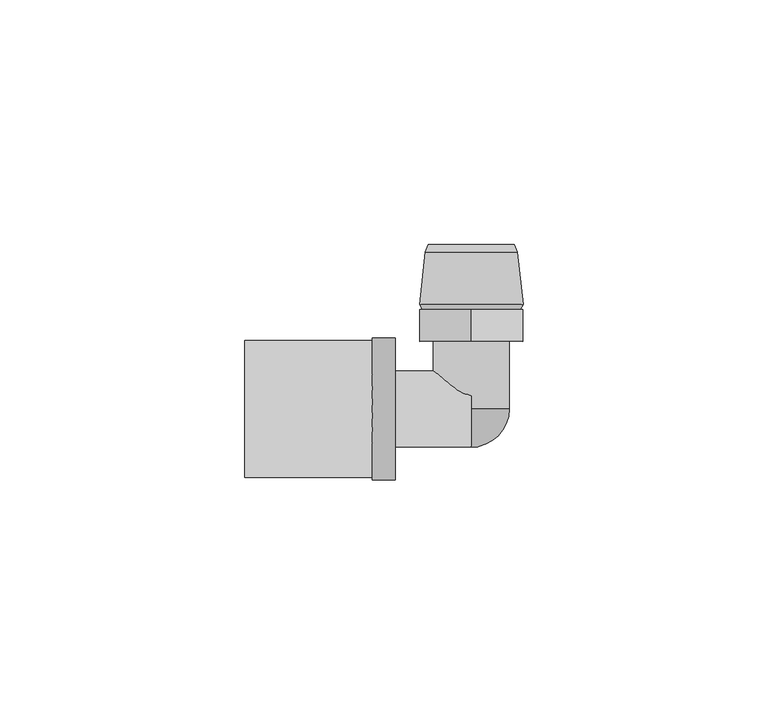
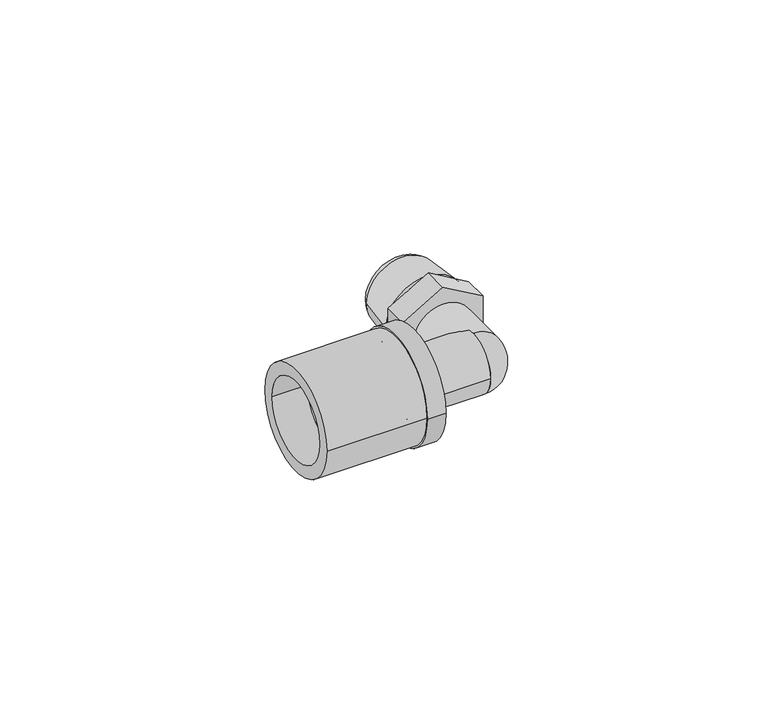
"""IFC4 building model written with IfcOpenShell, lengths in millimetres: pipe fitting geometry, FASTLOC_Elbow with male thread EX+ : FSL A internal AT."""

import ifcopenshell
import ifcopenshell.guid

model = None  # the IFC model being written
_history = None  # IfcOwnerHistory: only IFC2X3 demands one
_inside = {}  # id of a spatial element -> (the spatial element, [elements in it])
_under = {}  # id of a project, library or spatial element -> (it, [spatial elements below it])
_declared = {}  # id of a project -> (the project, [libraries it declares])
_typed = {}  # id of a type object -> (the type object, [elements of that type])
_made_of = {}  # id of a material, layer set ... -> (it, [elements and type objects made of it])


def new_model(schema):
    """Start an empty IFC model of exactly this schema.

    Asked for "IFC4X3", IfcOpenShell would pick the latest addendum, in which some entities
    have other attributes; the version numbers below select the first issue.
    IFC2X3 requires an IfcOwnerHistory on every rooted entity: one is made here for all.
    """
    global model, _history
    if schema == "IFC4X3":
        model = ifcopenshell.file(schema_version=(4, 3, 0, 0))
    else:
        model = ifcopenshell.file(schema=schema)
    _inside.clear()
    _under.clear()
    _declared.clear()
    _typed.clear()
    _made_of.clear()
    _history = None
    if model.schema == "IFC2X3":
        org = make("IfcOrganization", Name="unknown")
        user = make(
            "IfcPersonAndOrganization",
            ThePerson=make("IfcPerson", FamilyName="unknown"),
            TheOrganization=org,
        )
        app = make(
            "IfcApplication",
            ApplicationDeveloper=org,
            Version="unknown",
            ApplicationFullName="unknown",
            ApplicationIdentifier="unknown",
        )
        _history = make(
            "IfcOwnerHistory",
            OwningUser=user,
            OwningApplication=app,
            ChangeAction="ADDED",
            CreationDate=0,
        )
    return model


def make(cls, **values):
    """One entity of the class cls with the attributes given. An attribute that is None is left unset."""
    return model.create_entity(
        cls, **{name: value for name, value in values.items() if value is not None}
    )


def rooted(cls, **values):
    """An entity with a GlobalId (a new one), such as an element, a storey or a relation."""
    return make(cls, GlobalId=ifcopenshell.guid.new(), OwnerHistory=_history, **values)


def si_unit(unit_type, name, prefix=None):
    """IfcSIUnit, for example si_unit("LENGTHUNIT", "METRE", prefix="MILLI")."""
    return make("IfcSIUnit", UnitType=unit_type, Prefix=prefix, Name=name)


def assignment(units):
    """IfcUnitAssignment: the units of a project."""
    return None if units is None else make("IfcUnitAssignment", Units=units)


def point(xyz):
    """IfcCartesianPoint."""
    return None if xyz is None else make("IfcCartesianPoint", Coordinates=xyz)


def direction(xyz):
    """IfcDirection."""
    return None if xyz is None else make("IfcDirection", DirectionRatios=xyz)


def frame(location, z_axis=None, x_axis=None):
    """IfcAxis2Placement3D, a coordinate frame: its origin and axes. An axis left out is left unset."""
    return make(
        "IfcAxis2Placement3D",
        Location=point(location),
        Axis=direction(z_axis),
        RefDirection=direction(x_axis),
    )


def frame_2d(location, x_axis=None):
    """IfcAxis2Placement2D, a coordinate frame in the plane: its origin and x axis."""
    return make(
        "IfcAxis2Placement2D", Location=point(location), RefDirection=direction(x_axis)
    )


def origin():
    """The frame at (0, 0, 0) with its axes left unset."""
    return frame((0.0, 0.0, 0.0))


def origin_2d():
    """The frame at (0, 0) in the plane with its x axis left unset."""
    return frame_2d((0.0, 0.0))


def place(relative_to, where):
    """IfcLocalPlacement: puts the frame where relative to a parent placement (None: the world)."""
    return make(
        "IfcLocalPlacement", PlacementRelTo=relative_to, RelativePlacement=where
    )


def context(
    kind, dimensions, precision=None, world=None, true_north=None, identifier=None
):
    """IfcGeometricRepresentationContext, for example the 3D "Model" context."""
    return make(
        "IfcGeometricRepresentationContext",
        ContextIdentifier=identifier,
        ContextType=kind,
        CoordinateSpaceDimension=dimensions,
        Precision=precision,
        WorldCoordinateSystem=world,
        TrueNorth=true_north,
    )


def project(units=None, contexts=None):
    """IfcProject with its units and contexts."""
    return rooted(
        "IfcProject",
        Name="project",
        RepresentationContexts=contexts,
        UnitsInContext=assignment(units),
    )


def spatial(cls, under=None, at=None, **own):
    """A site, building, storey or space (cls), placed at a placement, below another one or the project."""
    s = rooted(cls, ObjectPlacement=at, **own)
    if under is not None:
        _under.setdefault(under.id(), (under, []))[1].append(s)
    return s


def polyline(points):
    """IfcPolyline through the points."""
    return make("IfcPolyline", Points=[point(p) for p in points])


def circle_curve(where, radius):
    """IfcCircle in the frame where."""
    return make("IfcCircle", Position=where, Radius=radius)


def ellipse_curve(where, semi_axis1, semi_axis2):
    """IfcEllipse in the frame where."""
    return make(
        "IfcEllipse", Position=where, SemiAxis1=semi_axis1, SemiAxis2=semi_axis2
    )


def trimmed(basis, trim1, trim2, sense, master):
    """IfcTrimmedCurve: the piece of a basis curve between two trims."""
    return make(
        "IfcTrimmedCurve",
        BasisCurve=basis,
        Trim1=trim1,
        Trim2=trim2,
        SenseAgreement=sense,
        MasterRepresentation=master,
    )


def segment(curve, same_sense, transition):
    """IfcCompositeCurveSegment."""
    return make(
        "IfcCompositeCurveSegment",
        Transition=transition,
        SameSense=same_sense,
        ParentCurve=curve,
    )


def composite_curve(segments, self_intersect=None):
    """IfcCompositeCurve: segments joined end to end."""
    return make("IfcCompositeCurve", Segments=segments, SelfIntersect=self_intersect)


def outline(outer, holes=None, kind="AREA"):
    """IfcArbitraryClosedProfileDef: a profile drawn as a closed curve; with holes, ...WithVoids."""
    if holes is None:
        return make("IfcArbitraryClosedProfileDef", ProfileType=kind, OuterCurve=outer)
    return make(
        "IfcArbitraryProfileDefWithVoids",
        ProfileType=kind,
        OuterCurve=outer,
        InnerCurves=holes,
    )


def extrude(swept, where, along, depth):
    """IfcExtrudedAreaSolid: the profile swept, set in the frame where, extruded along a direction by depth."""
    return make(
        "IfcExtrudedAreaSolid",
        SweptArea=swept,
        Position=where,
        ExtrudedDirection=direction(along),
        Depth=depth,
    )


def shape(context_of_items, identifier, shape_type, items):
    """IfcShapeRepresentation: the items that make up one representation, for example the "Body"."""
    return make(
        "IfcShapeRepresentation",
        ContextOfItems=context_of_items,
        RepresentationIdentifier=identifier,
        RepresentationType=shape_type,
        Items=items,
    )


def source(mapping_origin, context_of_items, identifier, shape_type, items):
    """IfcRepresentationMap: a shape defined once, which mapped items show again and again."""
    return make(
        "IfcRepresentationMap",
        MappingOrigin=mapping_origin,
        MappedRepresentation=shape(context_of_items, identifier, shape_type, items),
    )


def transform(
    local_origin,
    x_axis=None,
    y_axis=None,
    z_axis=None,
    scale=None,
    scale2=None,
    scale3=None,
    uniform=True,
):
    """IfcCartesianTransformationOperator3D, or its non-uniform kind. x_axis, y_axis, z_axis: its Axis1, 2, 3."""
    if uniform:
        return make(
            "IfcCartesianTransformationOperator3D",
            Axis1=direction(x_axis),
            Axis2=direction(y_axis),
            LocalOrigin=point(local_origin),
            Scale=scale,
            Axis3=direction(z_axis),
        )
    return make(
        "IfcCartesianTransformationOperator3DnonUniform",
        Axis1=direction(x_axis),
        Axis2=direction(y_axis),
        LocalOrigin=point(local_origin),
        Scale=scale,
        Axis3=direction(z_axis),
        Scale2=scale2,
        Scale3=scale3,
    )


def mapped(mapping_source, mapping_target):
    """IfcMappedItem: shows the shape of a source again, moved by a transform."""
    return make(
        "IfcMappedItem", MappingSource=mapping_source, MappingTarget=mapping_target
    )


def made_of(thing, what):
    """Note that an element or type object is made of a material, layer set ...; save() writes the relation."""
    if what is not None:
        _made_of.setdefault(what.id(), (what, []))[1].append(thing)
    return thing


def element(
    cls,
    number,
    at=None,
    inside=None,
    cuts=None,
    type_object=None,
    material=None,
    context=None,
    identifier="Body",
    shape_type=None,
    held_by="IfcProductDefinitionShape",
    body=None,
    shapes=None,
    **own,
):
    """One element of the class cls, such as IfcWall. Its Tag is "e" and its number.

    at: its placement. inside: the storey or other place that contains it. cuts: it is an
    opening in that element (IfcRelVoidsElement). A single representation is given by context,
    identifier, shape_type and body (its items); several are given by shapes. held_by: the class
    of the entity that holds the representations. save() writes the other relations.
    """
    e = rooted(cls, Tag="e%d" % number, ObjectPlacement=at, **own)
    if body is not None:
        shapes = [shape(context, identifier, shape_type, body)]
    if shapes is not None:
        e.Representation = make(held_by, Representations=shapes)
    if inside is not None:
        _inside.setdefault(inside.id(), (inside, []))[1].append(e)
    if cuts is not None:
        rooted(
            "IfcRelVoidsElement", RelatingBuildingElement=cuts, RelatedOpeningElement=e
        )
    if type_object is not None:
        _typed.setdefault(type_object.id(), (type_object, []))[1].append(e)
    return made_of(e, material)


def aggregate(whole, parts):
    """IfcRelAggregates: a whole, such as a stair, and the parts it consists of."""
    return rooted("IfcRelAggregates", RelatingObject=whole, RelatedObjects=parts)


def save(model, path):
    """Write the relations noted so far, then the file.

    IfcRelAggregates (storeys below a building ...), IfcRelContainedInSpatialStructure (elements
    in a storey), IfcRelDefinesByType, IfcRelAssociatesMaterial and IfcRelDeclares: one each for
    every whole, place, type object, material and project.
    """
    for whole, parts in _under.values():
        aggregate(whole, parts)
    for where, things in _inside.values():
        rooted(
            "IfcRelContainedInSpatialStructure",
            RelatedElements=things,
            RelatingStructure=where,
        )
    for kind, things in _typed.values():
        rooted("IfcRelDefinesByType", RelatedObjects=things, RelatingType=kind)
    for what, things in _made_of.values():
        rooted("IfcRelAssociatesMaterial", RelatedObjects=things, RelatingMaterial=what)
    for by, libraries in _declared.values():
        rooted("IfcRelDeclares", RelatingContext=by, RelatedDefinitions=libraries)
    model.write(path)


def plane_surface(at):
    """IfcPlane: the flat surface through the origin of the frame at, square to its z axis."""
    return make("IfcPlane", Position=at)


def cylinder_surface(at, radius):
    """IfcCylindricalSurface: all points at the distance radius from the z axis of the frame at."""
    return make("IfcCylindricalSurface", Position=at, Radius=radius)


def revolved_surface(curve, axis_point, axis_direction):
    """IfcSurfaceOfRevolution: the curve turned about the line through axis_point along axis_direction."""
    return make(
        "IfcSurfaceOfRevolution",
        SweptCurve=make("IfcArbitraryOpenProfileDef", ProfileType="CURVE", Curve=curve),
        AxisPosition=make("IfcAxis1Placement", Location=point(axis_point), Axis=direction(axis_direction)),
    )


def advanced_brep(points, edges, surfaces, faces):
    """IfcAdvancedBrep: a solid bounded by faces that lie on surfaces and meet in shared edges.

    An edge is (start, end): straight between two places in points (the first is 0);
    or (start, end, curve); or (start, end, curve, False) where it runs against its curve.
    A face is (place in surfaces, loops), or (place, loops, False) where it looks against
    its surface's normal. A loop lists edges by number (the first is 1), with a minus sign
    where the edge is run from its end to its start. The first loop is the outer one.
    """
    corners = [point(p) for p in points]
    vertices = [make("IfcVertexPoint", VertexGeometry=c) for c in corners]
    made = []
    for start, end, *more in edges:
        made.append(
            make(
                "IfcEdgeCurve",
                EdgeStart=vertices[start],
                EdgeEnd=vertices[end],
                EdgeGeometry=more[0] if more else make("IfcPolyline", Points=[corners[start], corners[end]]),
                SameSense=more[1] if len(more) > 1 else True,
            )
        )
    hull = []
    for where, loops, *sense in faces:
        bounds = []
        for j, loop in enumerate(loops):
            ring = [make("IfcOrientedEdge", EdgeElement=made[abs(k) - 1], Orientation=k > 0) for k in loop]
            bounds.append(
                make(
                    "IfcFaceOuterBound" if j == 0 else "IfcFaceBound",
                    Bound=make("IfcEdgeLoop", EdgeList=ring),
                    Orientation=True,
                )
            )
        hull.append(make("IfcAdvancedFace", Bounds=bounds, FaceSurface=surfaces[where], SameSense=sense[0] if sense else True))
    return make("IfcAdvancedBrep", Outer=make("IfcClosedShell", CfsFaces=hull))


def pipe_fitting_d3274886(model_context):
    return source(origin(), model_context, "Body", "SolidModel", [
        extrude(outline(composite_curve([segment(trimmed(circle_curve(origin_2d(), 14.0), [point((14.0, 0.0))], [point((-14.0, 0.0))], False, "CARTESIAN"), True, "CONTINUOUS"), segment(trimmed(circle_curve(origin_2d(), 14.0), [point((-14.0, 0.0))], [point((14.0, 0.0))], False, "CARTESIAN"), True, "CONTINUOUS")], self_intersect=False), holes=[composite_curve([segment(trimmed(circle_curve(origin_2d(), 10.7), [point((10.7, 0.0))], [point((-10.7, 0.0))], True, "CARTESIAN"), True, "CONTINUOUS"), segment(trimmed(circle_curve(origin_2d(), 10.7), [point((-10.7, 0.0))], [point((10.7, 0.0))], True, "CARTESIAN"), True, "CONTINUOUS")], self_intersect=False)]), frame((-46.2, 0.0, 0.0), z_axis=(1.0, 0.0, 0.0), x_axis=(0.0, 1.0, 0.0)), (0.0, 0.0, 1.0), 26.0),
        advanced_brep(
        [(-20.2, -14.5, 0.0), (-20.2, 14.5, 0.0), (-15.5, 14.5, 0.0), (-15.5, -14.5, 0.0), (-37.2, -11.85, 0.0), (-37.2, 11.85, 0.0), (-20.2, 11.85, 0.0), (-20.2, -11.85, 0.0), (-15.5, -10.15, 0.0), (-15.5, 10.15, 0.0), (-37.2, 10.15, 0.0), (-37.2, -10.15, 0.0)],
        [
            (0, 1, circle_curve(frame((-20.2, 0.0, 0.0), z_axis=(1.0, 0.0, 0.0), x_axis=(0.0, 1.0, 0.0)), 14.5)),
            (1, 2),
            (2, 3, circle_curve(frame((-15.5, 0.0, 0.0), z_axis=(-1.0, 0.0, 0.0), x_axis=(0.0, 1.0, 0.0)), 14.5)),
            (3, 0),
            (4, 5, circle_curve(frame((-37.2, 0.0, 0.0), z_axis=(1.0, 0.0, 0.0), x_axis=(0.0, 1.0, 0.0)), 11.85)),
            (5, 6),
            (6, 7, circle_curve(frame((-20.2, 0.0, 0.0), z_axis=(-1.0, 0.0, 0.0), x_axis=(0.0, 1.0, 0.0)), 11.85)),
            (7, 4),
            (8, 9, circle_curve(frame((-15.5, 0.0, 0.0), z_axis=(1.0, 0.0, 0.0), x_axis=(0.0, 1.0, 0.0)), 10.15)),
            (9, 10),
            (10, 11, circle_curve(frame((-37.2, 0.0, 0.0), z_axis=(-1.0, 0.0, 0.0), x_axis=(0.0, 1.0, 0.0)), 10.15)),
            (11, 8),
            (1, 0, circle_curve(frame((-20.2, 0.0, 0.0), z_axis=(1.0, 0.0, 0.0), x_axis=(0.0, -1.0, 0.0)), 14.5)),
            (3, 2, circle_curve(frame((-15.5, 0.0, 0.0), z_axis=(-1.0, 0.0, 0.0), x_axis=(0.0, -1.0, 0.0)), 14.5)),
            (6, 7, circle_curve(frame((-20.2, 0.0, 0.0), z_axis=(1.0, 0.0, 0.0), x_axis=(0.0, -1.0, 0.0)), 11.85)),
            (5, 4, circle_curve(frame((-37.2, 0.0, 0.0), z_axis=(1.0, 0.0, 0.0), x_axis=(0.0, -1.0, 0.0)), 11.85)),
            (10, 11, circle_curve(frame((-37.2, 0.0, 0.0), z_axis=(1.0, 0.0, 0.0), x_axis=(0.0, -1.0, 0.0)), 10.15)),
            (9, 8, circle_curve(frame((-15.5, 0.0, 0.0), z_axis=(1.0, 0.0, 0.0), x_axis=(0.0, -1.0, 0.0)), 10.15)),
        ],
        [
            cylinder_surface(frame((-15.5, 0.0, 0.0), z_axis=(-1.0, 0.0, 0.0), x_axis=(0.0, 1.0, 0.0)), 14.5),
            cylinder_surface(frame((-15.5, 0.0, 0.0), z_axis=(-1.0, 0.0, 0.0), x_axis=(0.0, 1.0, 0.0)), 11.85),
            revolved_surface(polyline([(-37.2, 10.15, 0.0), (-15.5, 10.15, 0.0)]), (-15.5, 0.0, 0.0), (-1.0, 0.0, 0.0)),
            cylinder_surface(frame((-15.5, 0.0, 0.0), z_axis=(-1.0, 0.0, 0.0), x_axis=(0.0, -1.0, 0.0)), 14.5),
            plane_surface(frame((-20.2, 0.0, 0.0), z_axis=(-1.0, 0.0, 0.0), x_axis=(0.0, -1.0, 0.0))),
            cylinder_surface(frame((-15.5, 0.0, 0.0), z_axis=(-1.0, 0.0, 0.0), x_axis=(0.0, -1.0, 0.0)), 11.85),
            plane_surface(frame((-37.2, 0.0, 0.0), z_axis=(-1.0, 0.0, 0.0), x_axis=(0.0, -1.0, 0.0))),
            revolved_surface(polyline([(-37.2, -10.15, 0.0), (-15.5, -10.15, 0.0)]), (-15.5, 0.0, 0.0), (-1.0, 0.0, 0.0)),
            plane_surface(frame((-15.5, 0.0, 0.0), z_axis=(1.0, 0.0, 0.0), x_axis=(0.0, -1.0, 0.0))),
        ],
        [
            (0, [[1, 2, 3, 4]]),
            (1, [[5, 6, 7, 8]]),
            (2, [[9, 10, 11, 12]]),
            (3, [[13, -4, 14, -2]]),
            (4, [[-13, -1], [15, -7]]),
            (5, [[16, -8, -15, -6]]),
            (6, [[-16, -5], [17, -11]]),
            (7, [[18, -12, -17, -10]]),
            (8, [[-14, -3], [-18, -9]]),
        ],
    ),
        advanced_brep(
        [(9.4, 32.0000007, 0.0), (-9.4, 32.0000007, 0.0), (-8.75, 33.5, 0.0), (8.75, 33.5, 0.0), (10.55, 21.3531902, 0.0), (-10.55, 21.3531902, 0.0), (10.0, 20.3, 0.0), (-10.0, 20.3, 0.0), (7.0, 21.7157803, 0.0), (-7.0, 21.7157803, 0.0), (-5.8967197, 20.3, 0.0), (5.8967197, 20.3, 0.0), (7.0, 33.5, 0.0), (-7.0, 33.5, 0.0)],
        [
            (0, 1, circle_curve(frame((0.0, 32.0000007, 0.0), z_axis=(0.0, 1.0, 0.0), x_axis=(-1.0, 0.0, 0.0)), 9.4)),
            (1, 2),
            (2, 3, circle_curve(frame((0.0, 33.5, 0.0), z_axis=(0.0, -1.0, 0.0), x_axis=(-1.0, 0.0, 0.0)), 8.75)),
            (3, 0),
            (4, 5, circle_curve(frame((0.0, 21.3531902, 0.0), z_axis=(0.0, 1.0, 0.0), x_axis=(-1.0, 0.0, 0.0)), 10.55)),
            (5, 1),
            (0, 4),
            (6, 7, circle_curve(frame((0.0, 20.3, 0.0), z_axis=(0.0, 1.0, 0.0), x_axis=(-1.0, 0.0, 0.0)), 10.0)),
            (7, 5),
            (4, 6),
            (8, 9, circle_curve(frame((0.0, 21.7157803, 0.0), z_axis=(0.0, 1.0, 0.0), x_axis=(-1.0, 0.0, 0.0)), 7.0)),
            (9, 10),
            (10, 11, circle_curve(frame((0.0, 20.3, 0.0), z_axis=(0.0, -1.0, 0.0), x_axis=(-1.0, 0.0, 0.0)), 5.8967197)),
            (11, 8),
            (12, 13, circle_curve(frame((0.0, 33.5, 0.0), z_axis=(0.0, 1.0, 0.0), x_axis=(-1.0, 0.0, 0.0)), 7.0)),
            (13, 9),
            (8, 12),
            (2, 3, circle_curve(frame((0.0, 33.5, 0.0), z_axis=(0.0, 1.0, 0.0), x_axis=(1.0, 0.0, 0.0)), 8.75)),
            (12, 13, circle_curve(frame((0.0, 33.5, 0.0), z_axis=(0.0, -1.0, 0.0), x_axis=(1.0, 0.0, 0.0)), 7.0)),
            (1, 0, circle_curve(frame((0.0, 32.0000007, 0.0), z_axis=(0.0, 1.0, 0.0), x_axis=(1.0, 0.0, 0.0)), 9.4)),
            (5, 4, circle_curve(frame((0.0, 21.3531902, 0.0), z_axis=(0.0, 1.0, 0.0), x_axis=(1.0, 0.0, 0.0)), 10.55)),
            (7, 6, circle_curve(frame((0.0, 20.3, 0.0), z_axis=(0.0, 1.0, 0.0), x_axis=(1.0, 0.0, 0.0)), 10.0)),
            (10, 11, circle_curve(frame((0.0, 20.3, 0.0), z_axis=(0.0, 1.0, 0.0), x_axis=(1.0, 0.0, 0.0)), 5.8967197)),
            (9, 8, circle_curve(frame((0.0, 21.7157803, 0.0), z_axis=(0.0, 1.0, 0.0), x_axis=(1.0, 0.0, 0.0)), 7.0)),
        ],
        [
            revolved_surface(polyline([(-8.75, 33.5, 0.0), (-9.4, 32.0000007, 0.0)]), (0.0, 13.8, 0.0), (0.0, -1.0, 0.0)),
            revolved_surface(polyline([(-9.4, 32.0000007, 0.0), (-10.55, 21.3531902, 0.0)]), (0.0, 13.8, 0.0), (0.0, -1.0, 0.0)),
            revolved_surface(polyline([(-10.55, 21.3531902, 0.0), (-10.0, 20.3, 0.0)]), (0.0, 13.8, 0.0), (0.0, -1.0, 0.0)),
            revolved_surface(polyline([(-5.8967197, 20.3, 0.0), (-7.0, 21.7157803, 0.0)]), (0.0, 13.8, 0.0), (0.0, -1.0, 0.0)),
            revolved_surface(polyline([(-7.0, 21.7157803, 0.0), (-7.0, 33.5, 0.0)]), (0.0, 13.8, 0.0), (0.0, -1.0, 0.0)),
            plane_surface(frame((0.0, 33.5, 0.0), z_axis=(0.0, 1.0, 0.0), x_axis=(1.0, 0.0, 0.0))),
            revolved_surface(polyline([(8.75, 33.5, 0.0), (9.4, 32.0000007, 0.0)]), (0.0, 13.8, 0.0), (0.0, -1.0, 0.0)),
            revolved_surface(polyline([(9.4, 32.0000007, 0.0), (10.55, 21.3531902, 0.0)]), (0.0, 13.8, 0.0), (0.0, -1.0, 0.0)),
            revolved_surface(polyline([(10.55, 21.3531902, 0.0), (10.0, 20.3, 0.0)]), (0.0, 13.8, 0.0), (0.0, -1.0, 0.0)),
            plane_surface(frame((0.0, 20.3, 0.0), z_axis=(0.0, -1.0, 0.0), x_axis=(1.0, 0.0, 0.0))),
            revolved_surface(polyline([(5.8967197, 20.3, 0.0), (7.0, 21.7157803, 0.0)]), (0.0, 13.8, 0.0), (0.0, -1.0, 0.0)),
            revolved_surface(polyline([(7.0, 21.7157803, 0.0), (7.0, 33.5, 0.0)]), (0.0, 13.8, 0.0), (0.0, -1.0, 0.0)),
        ],
        [
            (0, [[1, 2, 3, 4]]),
            (1, [[5, 6, -1, 7]]),
            (2, [[8, 9, -5, 10]]),
            (3, [[11, 12, 13, 14]]),
            (4, [[15, 16, -11, 17]]),
            (5, [[18, -3], [19, -15]]),
            (6, [[20, -4, -18, -2]]),
            (7, [[21, -7, -20, -6]]),
            (8, [[22, -10, -21, -9]]),
            (9, [[-22, -8], [23, -13]]),
            (10, [[24, -14, -23, -12]]),
            (11, [[-19, -17, -24, -16]]),
        ],
    ),
        advanced_brep(
        [(-20.2, 7.75, 0.0), (-20.2, -7.75, 0.0), (-37.6, -7.75, 0.0), (-37.6, 7.75, 0.0), (-17.5, 8.8, 0.0), (-17.5, -8.8, 0.0), (-20.2, -8.8, 0.0), (-20.2, 8.8, 0.0), (0.0, 7.75, 0.0), (0.0, -7.75, 0.0), (-17.5, -7.75, 0.0), (-17.5, 7.75, 0.0), (-37.6, 5.75, 0.0), (-37.6, -5.75, 0.0), (0.0, -5.75, 0.0), (0.0, 5.75, 0.0)],
        [
            (0, 1, circle_curve(frame((-20.2, 0.0, 0.0), z_axis=(-1.0, 0.0, 0.0), x_axis=(0.0, -1.0, 0.0)), 7.75)),
            (1, 2),
            (2, 3, circle_curve(frame((-37.6, 0.0, 0.0), z_axis=(1.0, 0.0, 0.0), x_axis=(0.0, -1.0, 0.0)), 7.75)),
            (3, 0),
            (4, 5, circle_curve(frame((-17.5, 0.0, 0.0), z_axis=(-1.0, 0.0, 0.0), x_axis=(0.0, -1.0, 0.0)), 8.8)),
            (5, 6),
            (6, 7, circle_curve(frame((-20.2, 0.0, 0.0), z_axis=(1.0, 0.0, 0.0), x_axis=(0.0, -1.0, 0.0)), 8.8)),
            (7, 4),
            (8, 9, circle_curve(frame((0.0, 0.0, 0.0), z_axis=(-1.0, 0.0, 0.0), x_axis=(0.0, -1.0, 0.0)), 7.75)),
            (9, 10),
            (10, 11, circle_curve(frame((-17.5, 0.0, 0.0), z_axis=(1.0, 0.0, 0.0), x_axis=(0.0, -1.0, 0.0)), 7.75)),
            (11, 8),
            (12, 13, circle_curve(frame((-37.6, 0.0, 0.0), z_axis=(-1.0, 0.0, 0.0), x_axis=(0.0, -1.0, 0.0)), 5.75)),
            (13, 14),
            (14, 15, circle_curve(frame((0.0, 0.0, 0.0), z_axis=(1.0, 0.0, 0.0), x_axis=(0.0, -1.0, 0.0)), 5.75)),
            (15, 12),
            (2, 3, circle_curve(frame((-37.6, 0.0, 0.0), z_axis=(-1.0, 0.0, 0.0), x_axis=(0.0, 1.0, 0.0)), 7.75)),
            (12, 13, circle_curve(frame((-37.6, 0.0, 0.0), z_axis=(1.0, 0.0, 0.0), x_axis=(0.0, 1.0, 0.0)), 5.75)),
            (1, 0, circle_curve(frame((-20.2, 0.0, 0.0), z_axis=(-1.0, 0.0, 0.0), x_axis=(0.0, 1.0, 0.0)), 7.75)),
            (6, 7, circle_curve(frame((-20.2, 0.0, 0.0), z_axis=(-1.0, 0.0, 0.0), x_axis=(0.0, 1.0, 0.0)), 8.8)),
            (5, 4, circle_curve(frame((-17.5, 0.0, 0.0), z_axis=(-1.0, 0.0, 0.0), x_axis=(0.0, 1.0, 0.0)), 8.8)),
            (10, 11, circle_curve(frame((-17.5, 0.0, 0.0), z_axis=(-1.0, 0.0, 0.0), x_axis=(0.0, 1.0, 0.0)), 7.75)),
            (9, 8, circle_curve(frame((0.0, 0.0, 0.0), z_axis=(-1.0, 0.0, 0.0), x_axis=(0.0, 1.0, 0.0)), 7.75)),
            (14, 15, circle_curve(frame((0.0, 0.0, 0.0), z_axis=(-1.0, 0.0, 0.0), x_axis=(0.0, 1.0, 0.0)), 5.75)),
        ],
        [
            cylinder_surface(frame((0.0, 0.0, 0.0), z_axis=(1.0, 0.0, 0.0), x_axis=(0.0, -1.0, 0.0)), 7.75),
            cylinder_surface(frame((0.0, 0.0, 0.0), z_axis=(1.0, 0.0, 0.0), x_axis=(0.0, -1.0, 0.0)), 8.8),
            revolved_surface(polyline([(0.0, -5.75, 0.0), (-37.6, -5.75, 0.0)]), (0.0, 0.0, 0.0), (1.0, 0.0, 0.0)),
            plane_surface(frame((-37.6, 0.0, 0.0), z_axis=(-1.0, 0.0, 0.0), x_axis=(0.0, 1.0, 0.0))),
            cylinder_surface(frame((0.0, 0.0, 0.0), z_axis=(1.0, 0.0, 0.0), x_axis=(0.0, 1.0, 0.0)), 7.75),
            plane_surface(frame((-20.2, 0.0, 0.0), z_axis=(-1.0, 0.0, 0.0), x_axis=(0.0, 1.0, 0.0))),
            cylinder_surface(frame((0.0, 0.0, 0.0), z_axis=(1.0, 0.0, 0.0), x_axis=(0.0, 1.0, 0.0)), 8.8),
            plane_surface(frame((-17.5, 0.0, 0.0), z_axis=(1.0, 0.0, 0.0), x_axis=(0.0, 1.0, 0.0))),
            plane_surface(frame((0.0, 0.0, 0.0), z_axis=(1.0, 0.0, 0.0), x_axis=(0.0, 1.0, 0.0))),
            revolved_surface(polyline([(0.0, 5.75, 0.0), (-37.6, 5.75, 0.0)]), (0.0, 0.0, 0.0), (1.0, 0.0, 0.0)),
        ],
        [
            (0, [[1, 2, 3, 4]]),
            (1, [[5, 6, 7, 8]]),
            (0, [[9, 10, 11, 12]]),
            (2, [[13, 14, 15, 16]]),
            (3, [[17, -3], [18, -13]]),
            (4, [[19, -4, -17, -2]]),
            (5, [[20, -7], [-19, -1]]),
            (6, [[21, -8, -20, -6]]),
            (7, [[-21, -5], [22, -11]]),
            (4, [[23, -12, -22, -10]]),
            (8, [[-23, -9], [24, -15]]),
            (9, [[-18, -16, -24, -14]]),
        ],
    ),
        advanced_brep(
        [(0.0, -7.8, 0.0), (0.0, 0.0, 7.8), (0.0, 0.0, 5.75), (0.0, -5.75, 0.0), (0.0, 0.0, -5.75), (0.0, 0.0, -7.8)],
        [
            (0, 1, circle_curve(frame((0.0, 0.0, 0.0), z_axis=(-1.0, 0.0, 0.0), x_axis=(0.0, 0.0, 1.0)), 7.8)),
            (1, 2),
            (2, 3, circle_curve(frame((0.0, 0.0, 0.0), z_axis=(1.0, 0.0, 0.0), x_axis=(0.0, 0.0, 1.0)), 5.75)),
            (3, 0),
            (3, 4, circle_curve(frame((0.0, 0.0, 0.0), z_axis=(1.0, 0.0, 0.0), x_axis=(0.0, 0.0, -1.0)), 5.75)),
            (4, 5),
            (5, 0, circle_curve(frame((0.0, 0.0, 0.0), z_axis=(-1.0, 0.0, 0.0), x_axis=(0.0, 0.0, -1.0)), 7.8)),
            (5, 1, circle_curve(frame((0.0, 0.0, 0.0), z_axis=(0.0, -1.0, 0.0), x_axis=(0.0, 0.0, 1.0)), 7.8)),
            (4, 2, circle_curve(frame((0.0, 0.0, 0.0), z_axis=(0.0, -1.0, 0.0), x_axis=(0.0, 0.0, 1.0)), 5.75)),
        ],
        [
            plane_surface(frame((0.0, 0.0, 0.0), z_axis=(-1.0, 0.0, 0.0), x_axis=(0.0, 0.0, 1.0))),
            plane_surface(frame((0.0, 0.0, 0.0), z_axis=(-1.0, 0.0, 0.0), x_axis=(0.0, 0.0, -1.0))),
            revolved_surface(trimmed(ellipse_curve(frame((0.0, 0.0, 0.0), z_axis=(-1.0, 0.0, 0.0), x_axis=(0.0, 0.0, 1.0)), 7.8, 7.8), [point((0.0, -7.8, 0.0))], [point((0.0, 0.0, 7.8))], True, "CARTESIAN"), (0.0, 0.0, 0.0), (0.0, 1.0, 0.0)),
            plane_surface(frame((0.0, 0.0, 0.0), z_axis=(0.0, 1.0, 0.0), x_axis=(0.0, 0.0, 1.0))),
            revolved_surface(trimmed(ellipse_curve(frame((0.0, 0.0, 0.0), z_axis=(1.0, 0.0, 0.0), x_axis=(0.0, 0.0, 1.0)), 5.75, 5.75), [point((0.0, 0.0, 5.75))], [point((0.0, -5.75, 0.0))], True, "CARTESIAN"), (0.0, 0.0, 0.0), (0.0, 1.0, 0.0)),
        ],
        [
            (0, [[1, 2, 3, 4]]),
            (1, [[5, 6, 7, -4]]),
            (2, [[8, -1, -7]]),
            (3, [[9, -2, -8, -6]]),
            (4, [[-3, -9, -5]]),
        ],
    ),
        extrude(outline(polyline([(-6.0621778, 10.5), (6.0621778, 10.5), (12.1243557, 0.0), (6.0621778, -10.5), (-6.0621778, -10.5), (-12.1243557, 0.0), (-6.0621778, 10.5)])), frame((0.0, 13.8, 0.0), z_axis=(0.0, 1.0, 0.0), x_axis=(0.0, 0.0, 1.0)), (0.0, 0.0, 1.0), 6.5),
        extrude(outline(composite_curve([segment(trimmed(circle_curve(origin_2d(), 7.75), [point((0.0, -7.75))], [point((0.0, 7.75))], False, "CARTESIAN"), True, "CONTINUOUS"), segment(trimmed(circle_curve(origin_2d(), 7.75), [point((0.0, 7.75))], [point((0.0, -7.75))], False, "CARTESIAN"), True, "CONTINUOUS")], self_intersect=False), holes=[composite_curve([segment(trimmed(circle_curve(origin_2d(), 5.75), [point((0.0, -5.75))], [point((0.0, 5.75))], True, "CARTESIAN"), True, "CONTINUOUS"), segment(trimmed(circle_curve(origin_2d(), 5.75), [point((0.0, 5.75))], [point((0.0, -5.75))], True, "CARTESIAN"), True, "CONTINUOUS")], self_intersect=False)]), frame((0.0, 0.0, 0.0), z_axis=(0.0, 1.0, 0.0), x_axis=(0.0, 0.0, 1.0)), (0.0, 0.0, 1.0), 13.8),
    ])


if __name__ == "__main__":
    model = new_model("IFC4")
    model_context = context("Model", 3, world=origin())
    ifc_project = project(units=[si_unit("LENGTHUNIT", "METRE", prefix="MILLI")], contexts=[model_context])
    site = spatial("IfcSite", under=ifc_project)
    building = spatial("IfcBuilding", under=site)
    placement = place(None, origin())
    pipe_fitting_shape = pipe_fitting_d3274886(model_context)
    element("IfcPipeFitting", 1, ObjectType="FASTLOC_Elbow with male thread EX+ : FSL A internal AT", at=placement, inside=building, context=model_context, shape_type="MappedRepresentation", body=[
        mapped(pipe_fitting_shape, transform((0.0, 0.0, 0.0), x_axis=(1.0, 0.0, 0.0), y_axis=(0.0, 1.0, 0.0), z_axis=(0.0, 0.0, 1.0))),
    ])
    save(model, "model.ifc")
